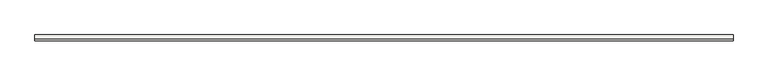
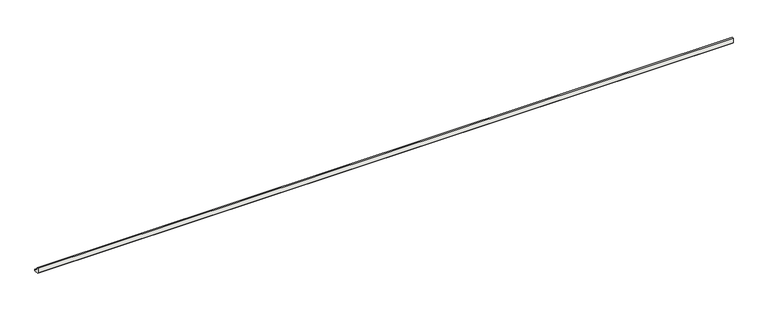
"""IFC4 building model written with IfcOpenShell, lengths in millimetres: slab geometry, ROSA GRES_112 : Pieza 112_Aqua_Plomo_Liso."""

from ifc_helpers import new_model, si_unit, point, frame, frame_2d, origin, place, context, project, spatial, polyline, circle_curve, trimmed, segment, composite_curve, outline, extrude, source, transform, mapped, element, save


def slab_0b7f0033(model_context):
    return source(origin(), model_context, "Body", "SweptSolid", [
        extrude(outline(composite_curve([segment(polyline([(0.0, 8.7114978), (0.0, 40.0), (9.9734114, 40.0)]), True, "CONTINUOUS"), segment(trimmed(circle_curve(frame_2d((39.9955547, 39.9955547)), 30.0221435), [point((9.9734114, 40.0))], [point((40.0, 9.9734114))], True, "CARTESIAN"), True, "CONTINUOUS"), segment(polyline([(40.0, 9.9734114), (40.0, 0.0), (8.7114978, 0.0), (0.0, 8.7114978)]), True, "CONTINUOUS")], self_intersect=False)), frame((0.0, 0.0, 0.0), z_axis=(1.0, 0.0, 0.0), x_axis=(0.0, 1.0, 0.0)), (0.0, 0.0, 1.0), 4769.9734114),
    ])


if __name__ == "__main__":
    model = new_model("IFC4")
    model_context = context("Model", 3, world=origin())
    ifc_project = project(units=[si_unit("LENGTHUNIT", "METRE", prefix="MILLI")], contexts=[model_context])
    site = spatial("IfcSite", under=ifc_project)
    building = spatial("IfcBuilding", under=site)
    placement = place(None, origin())
    slab_shape = slab_0b7f0033(model_context)
    element("IfcSlab", 1, ObjectType="ROSA GRES_112 : Pieza 112_Aqua_Plomo_Liso", at=placement, inside=building, context=model_context, shape_type="MappedRepresentation", body=[
        mapped(slab_shape, transform((0.0, 0.0, 0.0), x_axis=(1.0, 0.0, 0.0), y_axis=(0.0, 1.0, 0.0), z_axis=(0.0, 0.0, 1.0))),
    ])
    save(model, "model.ifc")
